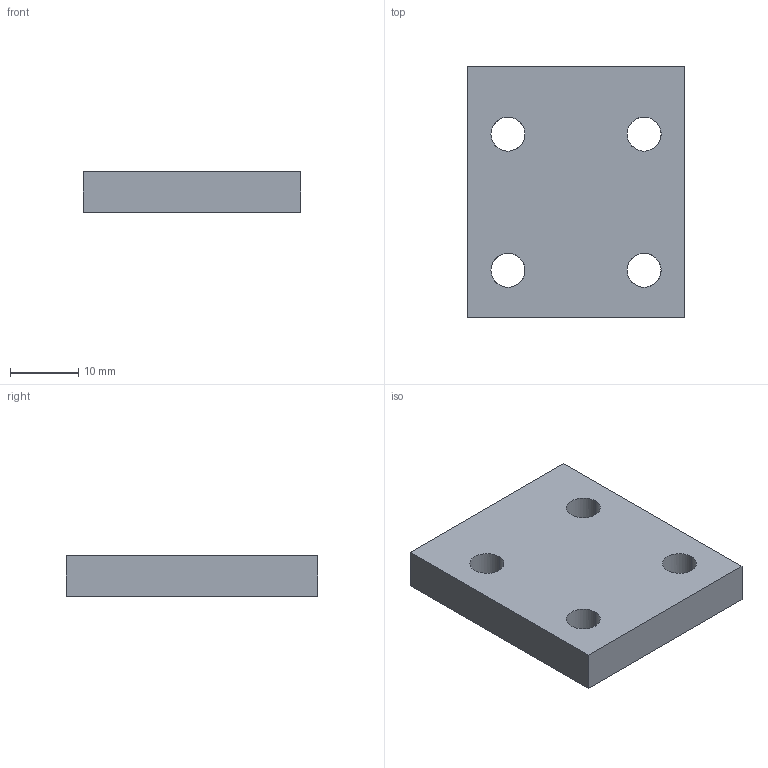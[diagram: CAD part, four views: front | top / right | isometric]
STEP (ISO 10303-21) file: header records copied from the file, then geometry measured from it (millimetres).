
FILE_DESCRIPTION(/* description */ (''),/* implementation_level */ '2;1');
FILE_NAME(/* name */ '8.x-drive#8.3#la-mpk-11',/* time_stamp */ '2014-12-01T20:18:09+01:00',/* author */ (''),/* organization */ (''),/* preprocessor_version */ 'ST-DEVELOPER v14',/* originating_system */ '',/* authorisation */ '');
FILE_SCHEMA (('AUTOMOTIVE_DESIGN'));
Length unit declared in the file: millimetre
Products named in the file (1): Document
Bounding box: 32 x 37 x 6 mm (x, y, z)
Volume: 6631.8 mm3; surface area: 3416.1 mm2
Topology: 1 solids, 1 shells, 14 faces, 36 edges, 24 vertices
Faces by surface type: bspline 8, plane 6
Entity records: 978 total; most frequent: CARTESIAN_POINT 488, ORIENTED_EDGE 72, PCURVE 72, DEFINITIONAL_REPRESENTATION 72, B_SPLINE_CURVE_WITH_KNOTS 68, SURFACE_CURVE 36, EDGE_CURVE 36, VERTEX_POINT 24
